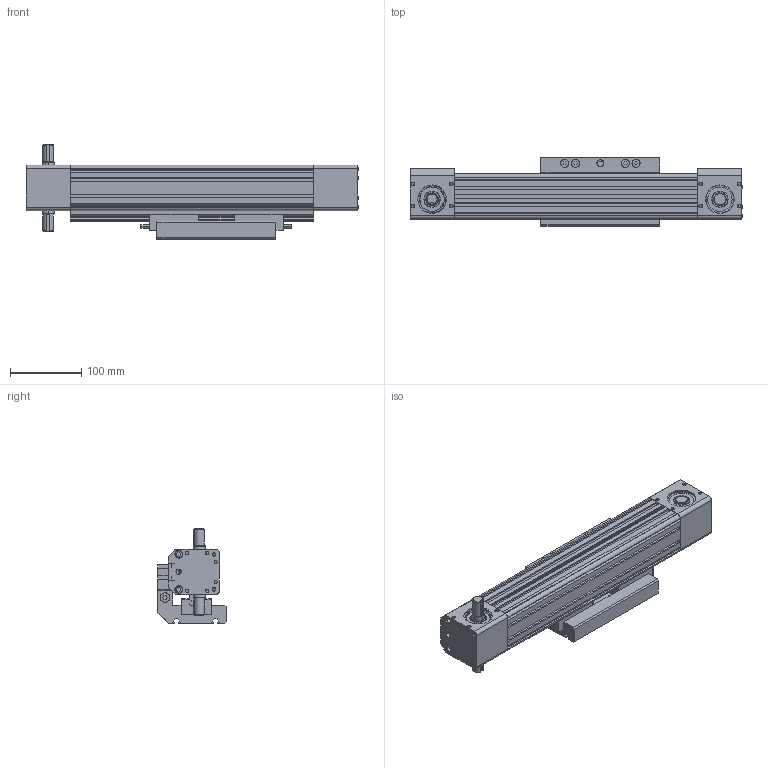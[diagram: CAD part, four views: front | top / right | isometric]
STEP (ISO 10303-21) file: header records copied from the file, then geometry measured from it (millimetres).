
FILE_DESCRIPTION((''),'2;1');
FILE_NAME('TCDH65-S100','2018-02-03T',('lenovo'),(''),'PRO/ENGINEER BY PARAMETRIC TECHNOLOGY CORPORATION, 2010280','PRO/ENGINEER BY PARAMETRIC TECHNOLOGY CORPORATION, 2010280','');
FILE_SCHEMA(('CONFIG_CONTROL_DESIGN'));
Products named in the file (1): TCDH65-S100
Bounding box: 466 x 96.5 x 132.5 mm (x, y, z)
Surface area: 498026.7 mm2 (no closed solid volume)
Topology: 0 solids, 42 shells, 2213 faces, 5865 edges, 3850 vertices
Faces by surface type: plane 1121, cylinder 810, cone 230, torus 52
Entity records: 69908 total; most frequent: CARTESIAN_POINT 13092, DIRECTION 12221, ORIENTED_EDGE 11654, EDGE_CURVE 5865, AXIS2_PLACEMENT_3D 4339, VERTEX_POINT 3850, VECTOR 3543, LINE 3543
